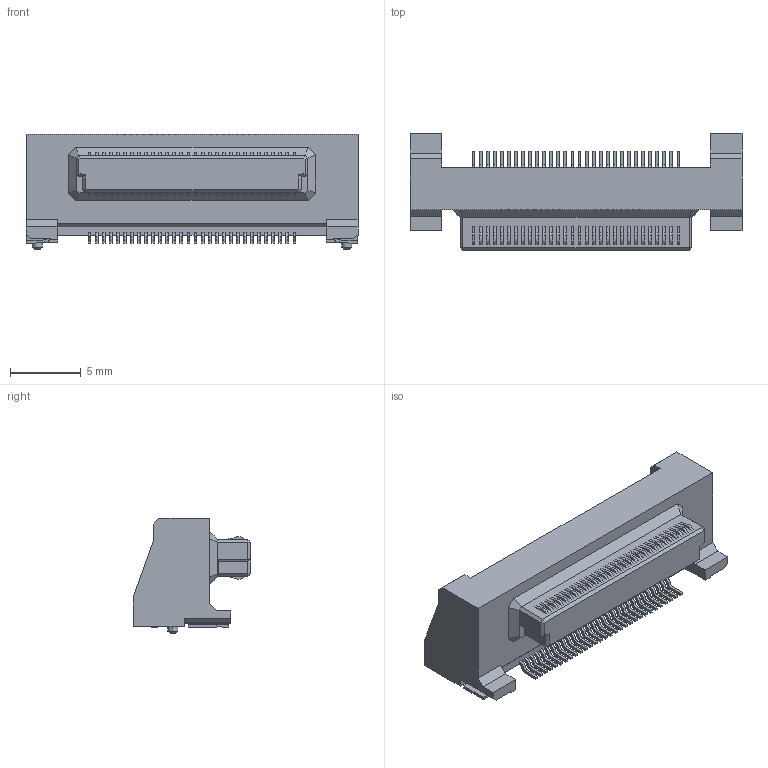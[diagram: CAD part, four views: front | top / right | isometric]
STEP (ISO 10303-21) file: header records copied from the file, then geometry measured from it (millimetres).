
FILE_DESCRIPTION(('Creo Elements/Direct Modeling STEP Export'),'2;1');
FILE_NAME('DY11-060L.stp','2017-11-30T15:55:52',(''),(''),'Creo Elements/Direct Modeling STEP processor for AP214 (Solid Model)','Creo Elements/Direct Modeling 19.0F 14-Feb-2017 (C) Parametric Technology GmbH','');
FILE_SCHEMA(('AUTOMOTIVE_DESIGN { 1 0 10303 214 1 1 1 1 }'));
Length unit declared in the file: millimetre
Products named in the file (2): DY11-060L
Assembly tree (1 placements, depth 2):
  DY11-060L
    DY11-060L
Bounding box: 23.5 x 8.3 x 8.15 mm (x, y, z)
Volume: 691.6 mm3; surface area: 842.2 mm2
Topology: 1 solids, 1 shells, 1037 faces, 2828 edges, 1858 vertices
Faces by surface type: plane 725, cylinder 308, cone 4
Entity records: 31993 total; most frequent: ORIENTED_EDGE 5656, CARTESIAN_POINT 5588, DIRECTION 5319, EDGE_CURVE 2828, VECTOR 2141, LINE 2141, VERTEX_POINT 1858, AXIS2_PLACEMENT_3D 1589
